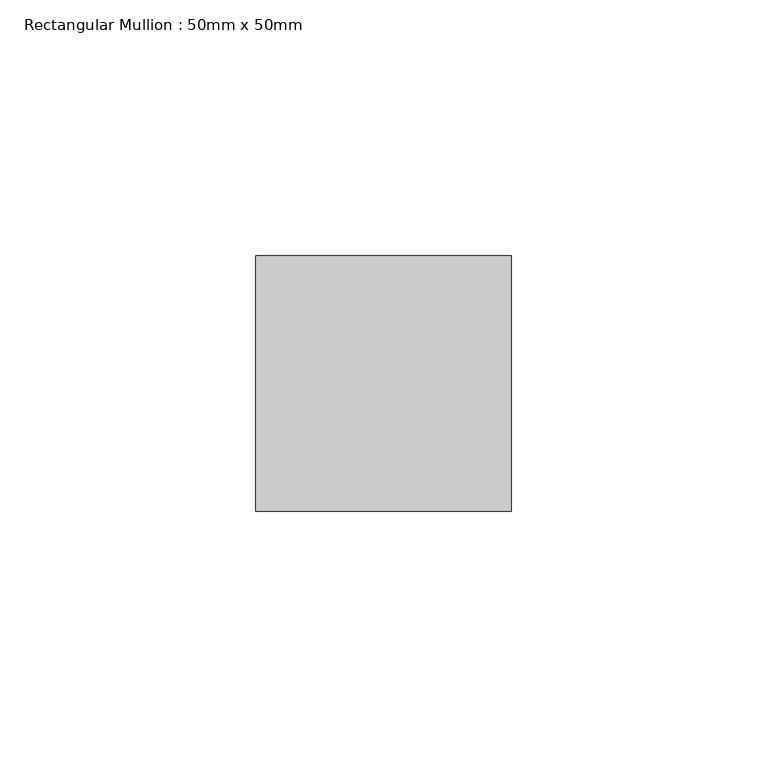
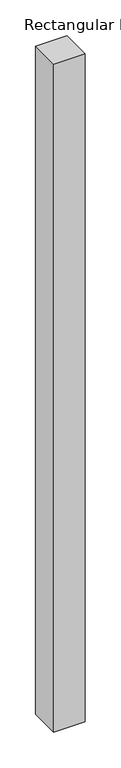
"""IFC4 building model written with IfcOpenShell, lengths in millimetres: member geometry, Rectangular Mullion : 50mm x 50mm."""

from ifc_helpers import new_model, si_unit, frame, origin, place, context, project, spatial, polyline, outline, extrude, source, transform, mapped, element, save


def rectangular_mullion_50mm_x_50mm_16c4c3c0(model_context):
    return source(origin(), model_context, "Body", "SweptSolid", [
        extrude(outline(polyline([(0.0, 25.0), (0.0, -25.0), (-50.0, -25.0), (-50.0, 25.0), (0.0, 25.0)])), frame((0.0, 0.0, -1132.9235702), z_axis=(0.0, 0.0, 1.0), x_axis=(1.0, 0.0, 0.0)), (0.0, 0.0, 1.0), 1132.9235702),
    ])


if __name__ == "__main__":
    model = new_model("IFC4")
    model_context = context("Model", 3, world=origin())
    ifc_project = project(units=[si_unit("LENGTHUNIT", "METRE", prefix="MILLI")], contexts=[model_context])
    site = spatial("IfcSite", under=ifc_project)
    building = spatial("IfcBuilding", under=site)
    placement = place(None, origin())
    rectangular_mullion_50mm_x_50mm_shape = rectangular_mullion_50mm_x_50mm_16c4c3c0(model_context)
    element("IfcMember", 1, ObjectType="Rectangular Mullion : 50mm x 50mm", at=placement, inside=building, context=model_context, shape_type="MappedRepresentation", body=[
        mapped(rectangular_mullion_50mm_x_50mm_shape, transform((0.0, 0.0, 0.0), x_axis=(1.0, 0.0, 0.0), y_axis=(0.0, 1.0, 0.0), z_axis=(0.0, 0.0, 1.0))),
    ])
    save(model, "model.ifc")
